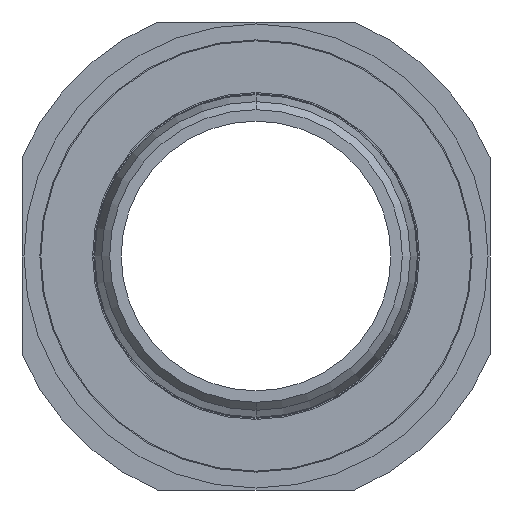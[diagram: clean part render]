
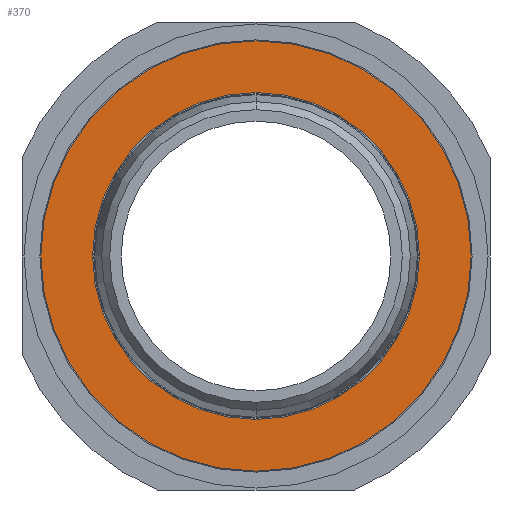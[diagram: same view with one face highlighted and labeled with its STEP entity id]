
A CAD part, left-side view. The second image highlights one B-rep face of the part: STEP entity #370.
In plain terms, the highlighted planar face has unit normal (-1, 0, 0).
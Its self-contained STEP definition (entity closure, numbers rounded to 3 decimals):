
#370 = ADVANCED_FACE ( 'NONE', ( #1594, #1598 ), #1845, .F. ) ;
#475 = AXIS2_PLACEMENT_3D ( 'NONE', #1276, #1277, #1278 ) ;
#477 = AXIS2_PLACEMENT_3D ( 'NONE', #1286, #1287, #1288 ) ;
#480 = AXIS2_PLACEMENT_3D ( 'NONE', #660, #661, #662 ) ;
#481 = AXIS2_PLACEMENT_3D ( 'NONE', #664, #665, #666 ) ;
#527 = VERTEX_POINT ( 'NONE', #1348 ) ;
#660 = CARTESIAN_POINT ( 'NONE',  ( -75., 0., 0. ) ) ;
#661 = DIRECTION ( 'NONE',  ( 1., 0., 0. ) ) ;
#662 = DIRECTION ( 'NONE',  ( 0., 0., -1. ) ) ;
#664 = CARTESIAN_POINT ( 'NONE',  ( -75., 0., 0. ) ) ;
#665 = DIRECTION ( 'NONE',  ( 1., 0., 0. ) ) ;
#666 = DIRECTION ( 'NONE',  ( 0., 0., -1. ) ) ;
#772 = CARTESIAN_POINT ( 'NONE',  ( -75., 0., 27.125 ) ) ;
#792 = CARTESIAN_POINT ( 'NONE',  ( -75., 0., -20.6 ) ) ;
#793 = CARTESIAN_POINT ( 'NONE',  ( -75., 0., 20.6 ) ) ;
#818 = AXIS2_PLACEMENT_3D ( 'NONE', #1837, #1849, #1862 ) ;
#1276 = CARTESIAN_POINT ( 'NONE',  ( -75., 0., 0. ) ) ;
#1277 = DIRECTION ( 'NONE',  ( 1., 0., 0. ) ) ;
#1278 = DIRECTION ( 'NONE',  ( 0., 0., -1. ) ) ;
#1286 = CARTESIAN_POINT ( 'NONE',  ( -75., 0., 0. ) ) ;
#1287 = DIRECTION ( 'NONE',  ( 1., 0., 0. ) ) ;
#1288 = DIRECTION ( 'NONE',  ( 0., 0., -1. ) ) ;
#1348 = CARTESIAN_POINT ( 'NONE',  ( -75., 0., -27.125 ) ) ;
#1594 = FACE_OUTER_BOUND ( 'NONE', #1908, .T. ) ;
#1598 = FACE_BOUND ( 'NONE', #2072, .T. ) ;
#1662 = CIRCLE ( 'NONE', #477, 27.125 ) ;
#1671 = CIRCLE ( 'NONE', #480, 27.125 ) ;
#1672 = CIRCLE ( 'NONE', #481, 20.6 ) ;
#1837 = CARTESIAN_POINT ( 'NONE',  ( -75., 0., 0. ) ) ;
#1845 = PLANE ( 'NONE',  #818 ) ;
#1849 = DIRECTION ( 'NONE',  ( 1., 0., 0. ) ) ;
#1862 = DIRECTION ( 'NONE',  ( 0., 0., -1. ) ) ;
#1908 = EDGE_LOOP ( 'NONE', ( #2372, #2373 ) ) ;
#2026 = EDGE_CURVE ( 'NONE', #2136, #2135, #2237, .T. ) ;
#2030 = EDGE_CURVE ( 'NONE', #527, #2114, #1662, .T. ) ;
#2034 = EDGE_CURVE ( 'NONE', #2114, #527, #1671, .T. ) ;
#2035 = EDGE_CURVE ( 'NONE', #2135, #2136, #1672, .T. ) ;
#2072 = EDGE_LOOP ( 'NONE', ( #2374, #2375 ) ) ;
#2114 = VERTEX_POINT ( 'NONE', #772 ) ;
#2135 = VERTEX_POINT ( 'NONE', #792 ) ;
#2136 = VERTEX_POINT ( 'NONE', #793 ) ;
#2237 = CIRCLE ( 'NONE', #475, 20.6 ) ;
#2372 = ORIENTED_EDGE ( 'NONE', *, *, #2034, .F. ) ;
#2373 = ORIENTED_EDGE ( 'NONE', *, *, #2030, .F. ) ;
#2374 = ORIENTED_EDGE ( 'NONE', *, *, #2026, .T. ) ;
#2375 = ORIENTED_EDGE ( 'NONE', *, *, #2035, .T. ) ;
